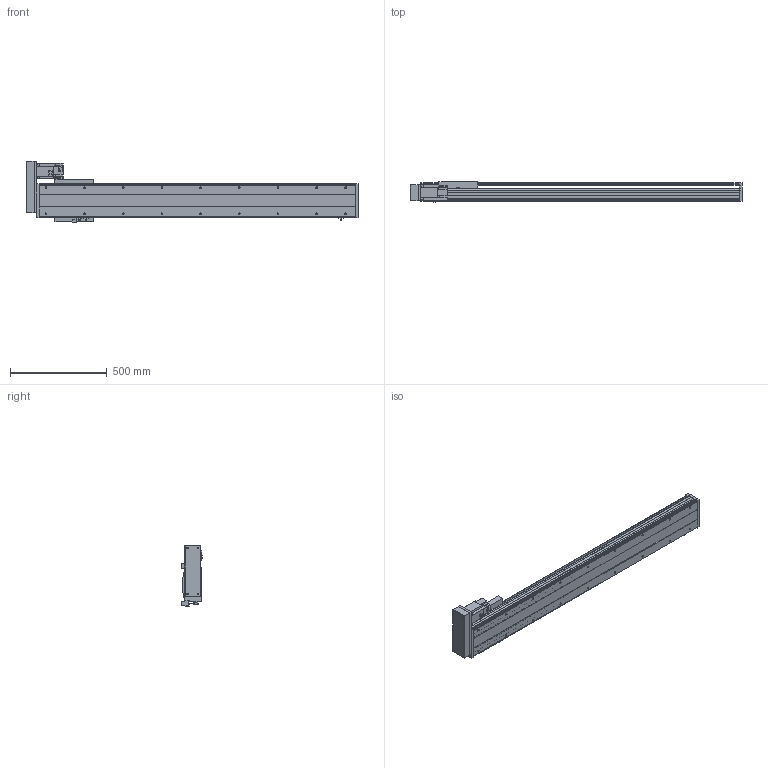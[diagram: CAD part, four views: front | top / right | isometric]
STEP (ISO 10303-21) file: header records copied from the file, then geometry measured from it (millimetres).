
FILE_DESCRIPTION(/* description */ ('STEP AP214'),/* implementation_level */ '2;1');
FILE_NAME(/* name */ 'PSS200-L10-S1300-BL-T75-C1-N(0)',/* time_stamp */ '2022-06-06T04:50:54+02:00',/* author */ ('License CC BY-ND 4.0'),/* organization */ ('CADENAS'),/* preprocessor_version */ 'ST-DEVELOPER v18.102',/* originating_system */ 'PARTsolutions',/* authorisation */ ' ');
FILE_SCHEMA (('AUTOMOTIVE_DESIGN {1 0 10303 214 3 1 1}'));
Length unit declared in the file: millimetre
Products named in the file (8): PSS200-L10-S1300-BL-T75-C1-N(0); PSS200-S1300-BL-N_S; T75-p1; PSS200BL-N_h; PSS200-N_sensor; PSS200-BL-C1-N_sl; PSS200-N_Q; PSS200-S1300-BL-C1-N_body
Assembly tree (9 placements, depth 2):
  PSS200-L10-S1300-BL-T75-C1-N(0)
    PSS200-S1300-BL-N_S
    T75-p1
    PSS200BL-N_h
    PSS200-N_sensor  x3
    PSS200-BL-C1-N_sl
    PSS200-N_Q
    PSS200-S1300-BL-C1-N_body
Bounding box: 1716.85 x 105.3 x 317.86 mm (x, y, z)
Volume: 10757178.3 mm3; surface area: 2635341.6 mm2
Topology: 9 solids, 9 shells, 616 faces, 1645 edges, 1086 vertices
Faces by surface type: plane 466, cylinder 120, cone 26, sphere 4
Full cylindrical faces by diameter (mm): 4 x2, 4.5 x4, 6 x7, 6.647 x22, 7.4 x4, 8 x8, 10 x6, 25 x1, 40 x1, 67 x1
Entity records: 17049 total; most frequent: CARTESIAN_POINT 2923, DIRECTION 2832, ORIENTED_EDGE 2774, EDGE_CURVE 1387, LINE 1090, VECTOR 1090, VERTEX_POINT 962, AXIS2_PLACEMENT_3D 871
